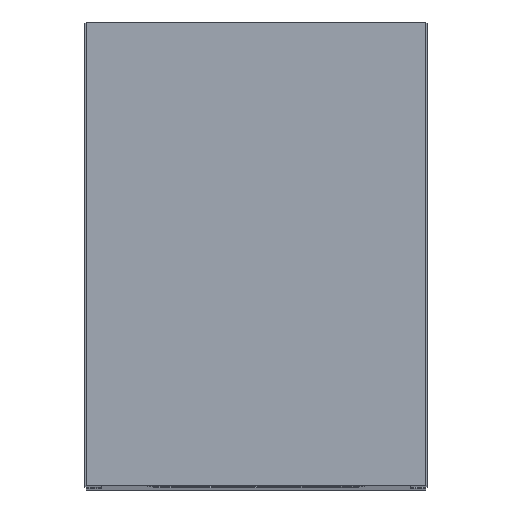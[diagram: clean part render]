
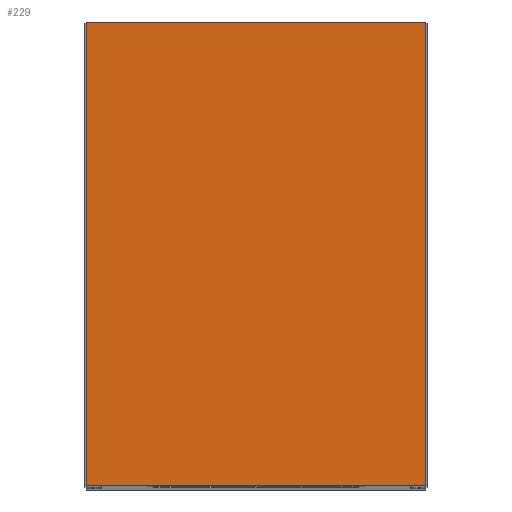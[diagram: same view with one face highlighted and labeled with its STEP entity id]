
A CAD part, top view. The second image highlights one B-rep face of the part: STEP entity #229.
In plain terms, the highlighted planar face has unit normal (0, 0, 1).
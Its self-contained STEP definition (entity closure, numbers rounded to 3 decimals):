
#153 = EDGE_CURVE ( 'NONE', #2606, #2663, #1066, .T. ) ;
#209 = EDGE_CURVE ( 'NONE', #2611, #2606, #1300, .T. ) ;
#229 = ADVANCED_FACE ( 'NONE', ( #468 ), #1218, .T. ) ;
#245 = EDGE_CURVE ( 'NONE', #2622, #2611, #1189, .T. ) ;
#338 = EDGE_CURVE ( 'NONE', #2663, #2622, #2097, .T. ) ;
#429 = AXIS2_PLACEMENT_3D ( 'NONE', #1217, #1216, #1215 ) ;
#446 = VECTOR ( 'NONE', #1064, 1000. ) ;
#468 = FACE_OUTER_BOUND ( 'NONE', #2188, .T. ) ;
#476 = VECTOR ( 'NONE', #1298, 1000. ) ;
#533 = VECTOR ( 'NONE', #1187, 1000. ) ;
#1064 = DIRECTION ( 'NONE',  ( -1., 0., 0. ) ) ;
#1065 = CARTESIAN_POINT ( 'NONE',  ( -11., 15., 65. ) ) ;
#1066 = LINE ( 'NONE', #1065, #446 ) ;
#1187 = DIRECTION ( 'NONE',  ( 1., 0., 0. ) ) ;
#1188 = CARTESIAN_POINT ( 'NONE',  ( -11., -15., 65. ) ) ;
#1189 = LINE ( 'NONE', #1188, #533 ) ;
#1215 = DIRECTION ( 'NONE',  ( 1., 0., 0. ) ) ;
#1216 = DIRECTION ( 'NONE',  ( 0., 0., 1. ) ) ;
#1217 = CARTESIAN_POINT ( 'NONE',  ( 0., 0., 65. ) ) ;
#1218 = PLANE ( 'NONE',  #429 ) ;
#1298 = DIRECTION ( 'NONE',  ( 0., 1., 0. ) ) ;
#1299 = CARTESIAN_POINT ( 'NONE',  ( 11., 15., 65. ) ) ;
#1300 = LINE ( 'NONE', #1299, #476 ) ;
#1738 = VECTOR ( 'NONE', #2091, 1000. ) ;
#1884 = CARTESIAN_POINT ( 'NONE',  ( -11., -15., 65. ) ) ;
#1896 = CARTESIAN_POINT ( 'NONE',  ( 11., -15., 65. ) ) ;
#1939 = CARTESIAN_POINT ( 'NONE',  ( -11., 15., 65. ) ) ;
#1945 = CARTESIAN_POINT ( 'NONE',  ( 11., 15., 65. ) ) ;
#2091 = DIRECTION ( 'NONE',  ( 0., -1., 0. ) ) ;
#2097 = LINE ( 'NONE', #2099, #1738 ) ;
#2099 = CARTESIAN_POINT ( 'NONE',  ( -11., 15., 65. ) ) ;
#2188 = EDGE_LOOP ( 'NONE', ( #2337, #2340, #2341, #2342 ) ) ;
#2337 = ORIENTED_EDGE ( 'NONE', *, *, #338, .T. ) ;
#2340 = ORIENTED_EDGE ( 'NONE', *, *, #245, .T. ) ;
#2341 = ORIENTED_EDGE ( 'NONE', *, *, #209, .T. ) ;
#2342 = ORIENTED_EDGE ( 'NONE', *, *, #153, .T. ) ;
#2606 = VERTEX_POINT ( 'NONE', #1945 ) ;
#2611 = VERTEX_POINT ( 'NONE', #1896 ) ;
#2622 = VERTEX_POINT ( 'NONE', #1884 ) ;
#2663 = VERTEX_POINT ( 'NONE', #1939 ) ;
